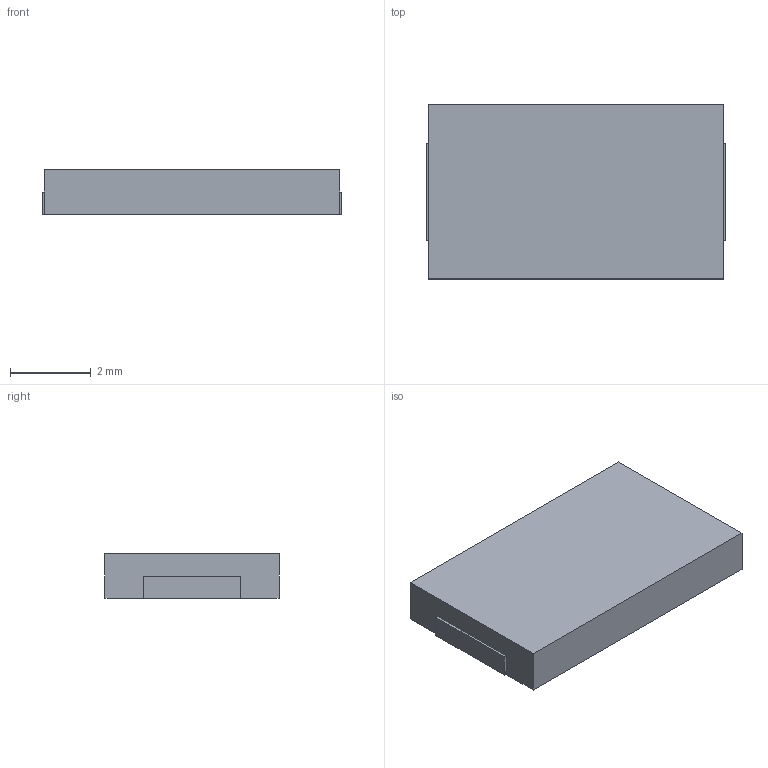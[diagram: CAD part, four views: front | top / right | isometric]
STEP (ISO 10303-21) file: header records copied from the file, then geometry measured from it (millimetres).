
FILE_DESCRIPTION((''),'2;1');
FILE_NAME('Y:\CADデータ\AutoCAD\貞安\7.3D\製品図\営業依頼分\1.SPC\SS1.2.stp','2013-09-27T13:47:14',('4024630'),(''),'Autodesk Inventor 2012','Autodesk Inventor 2012','');
FILE_SCHEMA(('AUTOMOTIVE_DESIGN { 1 0 10303 214 1 1 1 1 }'));
Length unit declared in the file: millimetre
Products named in the file (4): SS1.2; 端子1(0.55); 端子2(0.55)
Assembly tree (3 placements, depth 2):
  SS1.2
    SS1.2
    端子1(0.55)
    端子2(0.55)
Bounding box: 7.4 x 4.3 x 1.1 mm (x, y, z)
Volume: 34.8 mm3; surface area: 107 mm2
Topology: 3 solids, 3 shells, 30 faces, 72 edges, 48 vertices
Faces by surface type: plane 30
Entity records: 975 total; most frequent: CARTESIAN_POINT 157, DIRECTION 146, ORIENTED_EDGE 144, VECTOR 72, LINE 72, EDGE_CURVE 72, VERTEX_POINT 48, AXIS2_PLACEMENT_3D 37
